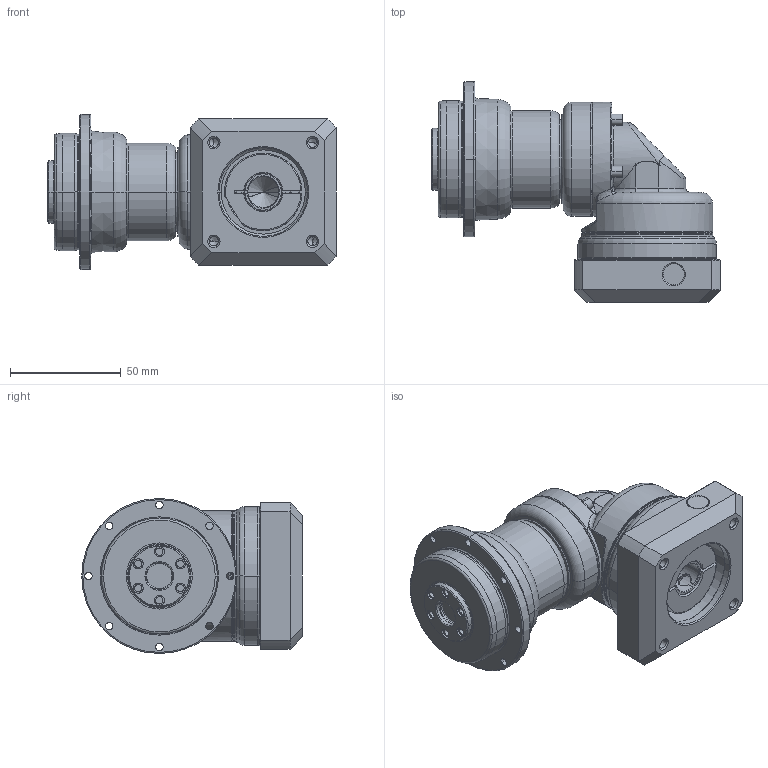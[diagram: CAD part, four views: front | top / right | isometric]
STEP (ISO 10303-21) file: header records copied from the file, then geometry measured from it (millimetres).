
FILE_DESCRIPTION((''),'2;1');
FILE_NAME('PDR053_2ST_14-P0411300101_ASM','2016-06-06T',('d01943'),(''),'PRO/ENGINEER BY PARAMETRIC TECHNOLOGY CORPORATION, 2008410','PRO/ENGINEER BY PARAMETRIC TECHNOLOGY CORPORATION, 2008410','');
FILE_SCHEMA(('CONFIG_CONTROL_DESIGN'));
Length unit declared in the file: millimetre
Products named in the file (10): P1355100001; P0367100001; P0275100001; P1349100001; P1017100001; P1350100201; P0411300101; P0503300005; P0713100201; PDR053_2ST_14-P0411300101_ASM
Assembly tree (9 placements, depth 2):
  PDR053_2ST_14-P0411300101_ASM
    P1355100001
    P0367100001
    P0275100001
    P1349100001
    P1017100001
    P1350100201
    P0411300101
    P0503300005
    P0713100201
Bounding box: 130.3 x 99.5 x 70 mm (x, y, z)
Volume: 297327.7 mm3; surface area: 77754.9 mm2
Topology: 9 solids, 9 shells, 509 faces, 1151 edges, 682 vertices
Faces by surface type: cylinder 173, cone 132, torus 88, plane 85, bspline 31
Entity records: 16992 total; most frequent: CARTESIAN_POINT 5337, DIRECTION 2586, ORIENTED_EDGE 2258, EDGE_CURVE 1129, AXIS2_PLACEMENT_3D 1111, VERTEX_POINT 682, CIRCLE 614, EDGE_LOOP 601
